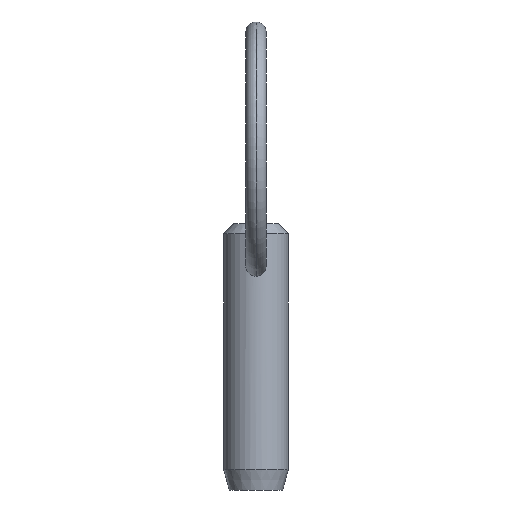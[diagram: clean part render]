
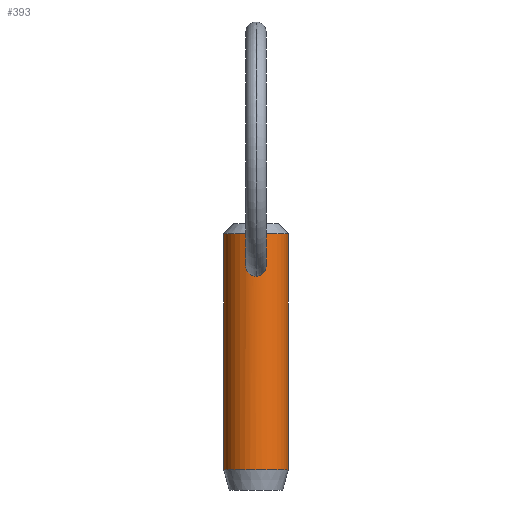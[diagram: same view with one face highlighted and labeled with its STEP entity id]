
A CAD part, front view. The second image highlights one B-rep face of the part: STEP entity #393.
In plain terms, the highlighted cylindrical face has radius 3.175 mm (diameter 6.35 mm), a partial arc.
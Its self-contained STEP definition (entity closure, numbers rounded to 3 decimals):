
#7 = CARTESIAN_POINT ( 'NONE',  ( 0.134, -3.175, 15.182 ) ) ;
#10 = CARTESIAN_POINT ( 'NONE',  ( 0.515, -3.135, 13.23 ) ) ;
#12 = CARTESIAN_POINT ( 'NONE',  ( 0., -3.175, 13.103 ) ) ;
#14 = ORIENTED_EDGE ( 'NONE', *, *, #58, .T. ) ;
#16 = CARTESIAN_POINT ( 'NONE',  ( -0.067, -3.175, 15.182 ) ) ;
#18 = CARTESIAN_POINT ( 'NONE',  ( -3.175, 0., 12.7 ) ) ;
#36 = CARTESIAN_POINT ( 'NONE',  ( 0.269, -3.166, 15.15 ) ) ;
#49 = DIRECTION ( 'NONE',  ( -1., 0., 0. ) ) ;
#58 = EDGE_CURVE ( 'NONE', #243, #173, #316, .T. ) ;
#62 = EDGE_CURVE ( 'NONE', #173, #243, #357, .T. ) ;
#69 = CARTESIAN_POINT ( 'NONE',  ( 0.815, -3.07, 13.495 ) ) ;
#79 = VERTEX_POINT ( 'NONE', #215 ) ;
#89 = AXIS2_PLACEMENT_3D ( 'NONE', #296, #222, #49 ) ;
#94 = ORIENTED_EDGE ( 'NONE', *, *, #182, .T. ) ;
#105 = CARTESIAN_POINT ( 'NONE',  ( 3.175, 0., 12.7 ) ) ;
#106 = CARTESIAN_POINT ( 'NONE',  ( 0., -3.175, 13.103 ) ) ;
#110 = CARTESIAN_POINT ( 'NONE',  ( -0.815, -3.07, 13.495 ) ) ;
#112 = ORIENTED_EDGE ( 'NONE', *, *, #62, .T. ) ;
#120 = EDGE_CURVE ( 'NONE', #171, #396, #214, .T. ) ;
#121 = CIRCLE ( 'NONE', #319, 3.175 ) ;
#130 = AXIS2_PLACEMENT_3D ( 'NONE', #366, #361, #445 ) ;
#137 = CARTESIAN_POINT ( 'NONE',  ( 0.888, -3.049, 13.609 ) ) ;
#142 = FACE_BOUND ( 'NONE', #368, .T. ) ;
#144 = CARTESIAN_POINT ( 'NONE',  ( 0., -3.175, 15.182 ) ) ;
#150 = CARTESIAN_POINT ( 'NONE',  ( -0.133, -3.173, 15.174 ) ) ;
#153 = CARTESIAN_POINT ( 'NONE',  ( 3.175, 0., -5.92 ) ) ;
#155 = CARTESIAN_POINT ( 'NONE',  ( -0.264, -3.165, 15.144 ) ) ;
#157 = CARTESIAN_POINT ( 'NONE',  ( -0.615, -3.116, 14.953 ) ) ;
#164 = EDGE_CURVE ( 'NONE', #79, #171, #121, .T. ) ;
#171 = VERTEX_POINT ( 'NONE', #261 ) ;
#172 = LINE ( 'NONE', #105, #388 ) ;
#173 = VERTEX_POINT ( 'NONE', #12 ) ;
#181 = CARTESIAN_POINT ( 'NONE',  ( -0.516, -3.135, 13.231 ) ) ;
#182 = EDGE_CURVE ( 'NONE', #396, #267, #206, .T. ) ;
#184 = CARTESIAN_POINT ( 'NONE',  ( -0.983, -3.02, 13.859 ) ) ;
#186 = CARTESIAN_POINT ( 'NONE',  ( 0., 0., 17.28 ) ) ;
#194 = CARTESIAN_POINT ( 'NONE',  ( -0.508, -3.136, 15.035 ) ) ;
#199 = ORIENTED_EDGE ( 'NONE', *, *, #444, .F. ) ;
#201 = VECTOR ( 'NONE', #268, 1000. ) ;
#206 = CIRCLE ( 'NONE', #89, 3.175 ) ;
#212 = DIRECTION ( 'NONE',  ( 0., 0., -1. ) ) ;
#214 = LINE ( 'NONE', #18, #201 ) ;
#215 = CARTESIAN_POINT ( 'NONE',  ( 3.175, 0., 17.28 ) ) ;
#222 = DIRECTION ( 'NONE',  ( 0., 0., 1. ) ) ;
#232 = CARTESIAN_POINT ( 'NONE',  ( -0.882, -3.055, 14.66 ) ) ;
#243 = VERTEX_POINT ( 'NONE', #421 ) ;
#248 = CARTESIAN_POINT ( 'NONE',  ( 0.884, -3.055, 14.657 ) ) ;
#256 = CARTESIAN_POINT ( 'NONE',  ( -0.629, -3.114, 13.305 ) ) ;
#261 = CARTESIAN_POINT ( 'NONE',  ( -3.175, 0., 17.28 ) ) ;
#267 = VERTEX_POINT ( 'NONE', #153 ) ;
#268 = DIRECTION ( 'NONE',  ( 0., 0., -1. ) ) ;
#289 = CARTESIAN_POINT ( 'NONE',  ( 1.004, -3.012, 13.993 ) ) ;
#291 = ORIENTED_EDGE ( 'NONE', *, *, #120, .T. ) ;
#296 = CARTESIAN_POINT ( 'NONE',  ( 0., 0., -5.92 ) ) ;
#305 = DIRECTION ( 'NONE',  ( 1., 0., 0. ) ) ;
#308 = CARTESIAN_POINT ( 'NONE',  ( 0., -3.175, 15.182 ) ) ;
#316 = B_SPLINE_CURVE_WITH_KNOTS ( 'NONE', 3,
 ( #144, #7, #36, #449, #373, #248, #371, #289, #341, #137, #69, #377, #10, #411, #414, #455 ),
 .UNSPECIFIED., .F., .F.,
 ( 4, 2, 2, 2, 2, 2, 2, 4 ),
 ( 0.003, 0.003, 0.004, 0.004, 0.005, 0.005, 0.006, 0.006 ),
 .UNSPECIFIED. ) ;
#319 = AXIS2_PLACEMENT_3D ( 'NONE', #186, #462, #305 ) ;
#341 = CARTESIAN_POINT ( 'NONE',  ( 0.982, -3.02, 13.858 ) ) ;
#357 = B_SPLINE_CURVE_WITH_KNOTS ( 'NONE', 3,
 ( #106, #416, #422, #181, #256, #110, #419, #184, #460, #430, #232, #157, #194, #429, #155, #150, #16, #308 ),
 .UNSPECIFIED., .F., .F.,
 ( 4, 2, 2, 2, 2, 2, 2, 2, 4 ),
 ( 0.006, 0.006, 0.007, 0.007, 0.008, 0.008, 0.009, 0.009, 0.009 ),
 .UNSPECIFIED. ) ;
#359 = ORIENTED_EDGE ( 'NONE', *, *, #164, .T. ) ;
#361 = DIRECTION ( 'NONE',  ( 0., 0., -1. ) ) ;
#366 = CARTESIAN_POINT ( 'NONE',  ( 0., 0., 12.7 ) ) ;
#368 = EDGE_LOOP ( 'NONE', ( #14, #112 ) ) ;
#371 = CARTESIAN_POINT ( 'NONE',  ( 0.992, -3.016, 14.394 ) ) ;
#373 = CARTESIAN_POINT ( 'NONE',  ( 0.617, -3.116, 14.951 ) ) ;
#377 = CARTESIAN_POINT ( 'NONE',  ( 0.628, -3.114, 13.304 ) ) ;
#388 = VECTOR ( 'NONE', #212, 1000. ) ;
#393 = ADVANCED_FACE ( 'NONE', ( #440, #142 ), #473, .T. ) ;
#396 = VERTEX_POINT ( 'NONE', #481 ) ;
#411 = CARTESIAN_POINT ( 'NONE',  ( 0.268, -3.166, 13.129 ) ) ;
#414 = CARTESIAN_POINT ( 'NONE',  ( 0.134, -3.175, 13.103 ) ) ;
#416 = CARTESIAN_POINT ( 'NONE',  ( -0.134, -3.175, 13.103 ) ) ;
#419 = CARTESIAN_POINT ( 'NONE',  ( -0.888, -3.049, 13.609 ) ) ;
#421 = CARTESIAN_POINT ( 'NONE',  ( 0., -3.175, 15.182 ) ) ;
#422 = CARTESIAN_POINT ( 'NONE',  ( -0.269, -3.166, 13.129 ) ) ;
#429 = CARTESIAN_POINT ( 'NONE',  ( -0.328, -3.159, 15.121 ) ) ;
#430 = CARTESIAN_POINT ( 'NONE',  ( -0.991, -3.016, 14.396 ) ) ;
#440 = FACE_OUTER_BOUND ( 'NONE', #480, .T. ) ;
#444 = EDGE_CURVE ( 'NONE', #79, #267, #172, .T. ) ;
#445 = DIRECTION ( 'NONE',  ( -1., 0., 0. ) ) ;
#449 = CARTESIAN_POINT ( 'NONE',  ( 0.51, -3.136, 15.034 ) ) ;
#455 = CARTESIAN_POINT ( 'NONE',  ( 0., -3.175, 13.103 ) ) ;
#460 = CARTESIAN_POINT ( 'NONE',  ( -1.004, -3.012, 13.995 ) ) ;
#462 = DIRECTION ( 'NONE',  ( 0., 0., -1. ) ) ;
#473 = CYLINDRICAL_SURFACE ( 'NONE', #130, 3.175 ) ;
#480 = EDGE_LOOP ( 'NONE', ( #199, #359, #291, #94 ) ) ;
#481 = CARTESIAN_POINT ( 'NONE',  ( -3.175, 0., -5.92 ) ) ;
